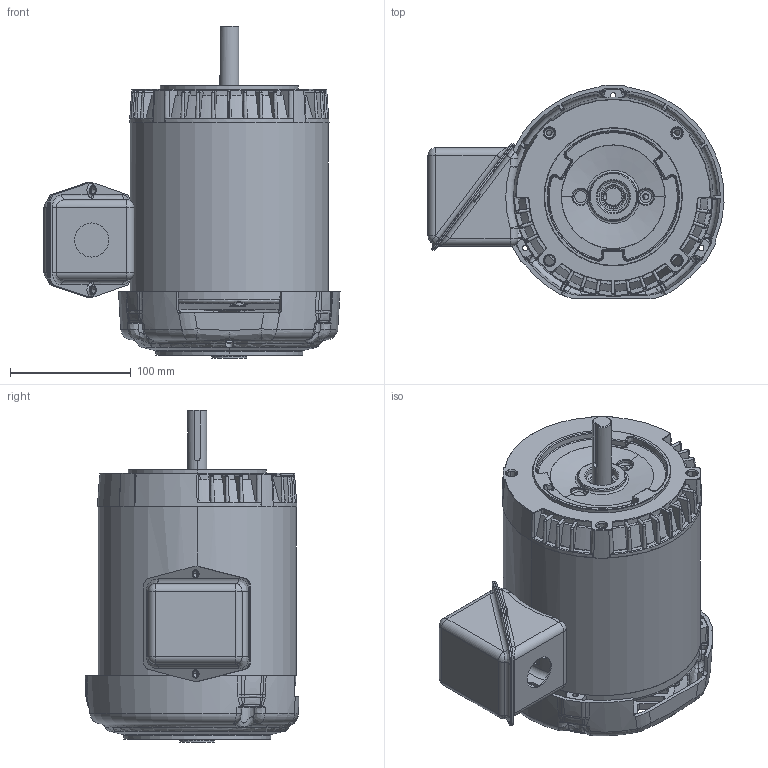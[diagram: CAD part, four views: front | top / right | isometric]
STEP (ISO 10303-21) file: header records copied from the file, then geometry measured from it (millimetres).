
FILE_DESCRIPTION((''),'2;1');
FILE_NAME('56C_UTF_5500_ASM','2015-07-13T',('NMC2342'),('Nidec Motor Corporation'),'PRO/ENGINEER BY PARAMETRIC TECHNOLOGY CORPORATION, 2013150','PRO/ENGINEER BY PARAMETRIC TECHNOLOGY CORPORATION, 2013150','');
FILE_SCHEMA(('CONFIG_CONTROL_DESIGN'));
Length unit declared in the file: inch
Products named in the file (11): FRAME; 0399601; 0912536; 0387280-BKT_AF0; I20258935000_AF0; 0387281_ASM; S33749496ZZ01; 0345816; 0343740; 0936277-SHA; 56C_UTF_5500_ASM
Assembly tree (10 placements, depth 3):
  56C_UTF_5500_ASM
    FRAME
    0399601
    0912536
    0387281_ASM
      0387280-BKT_AF0
      I20258935000_AF0
    S33749496ZZ01
    0345816
    0343740
    0936277-SHA
Bounding box: 244.71 x 176.8 x 274.46 mm (x, y, z)
Volume: 624527.6 mm3; surface area: 474386.2 mm2
Topology: 11 solids, 11 shells, 2951 faces, 7397 edges, 4418 vertices
Faces by surface type: bspline 1145, plane 535, cylinder 473, torus 341, cone 318, sphere 94, revolution 29, extrusion 16
Entity records: 136382 total; most frequent: CARTESIAN_POINT 74507, ORIENTED_EDGE 14770, DIRECTION 10638, EDGE_CURVE 7385, AXIS2_PLACEMENT_3D 4588, VERTEX_POINT 4418, B_SPLINE_CURVE_WITH_KNOTS 3209, EDGE_LOOP 3069
